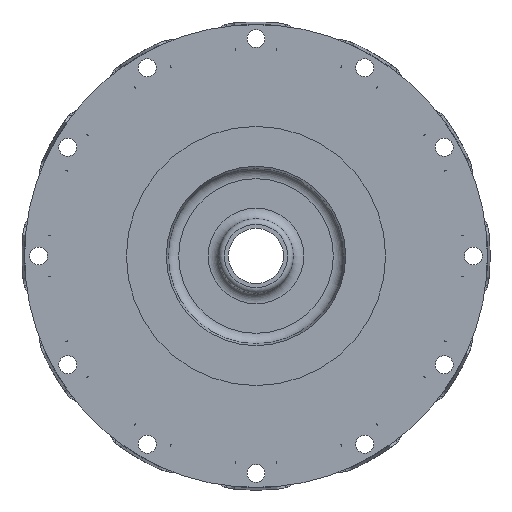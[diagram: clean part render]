
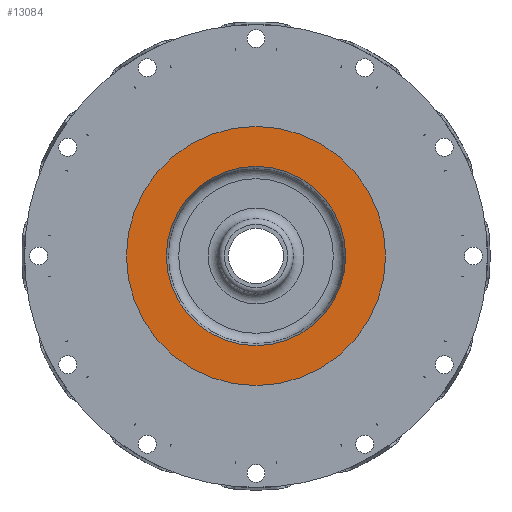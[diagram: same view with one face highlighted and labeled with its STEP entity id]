
A CAD part, left-side view. The second image highlights one B-rep face of the part: STEP entity #13084.
In plain terms, the highlighted planar face has unit normal (-1, 0, 0).
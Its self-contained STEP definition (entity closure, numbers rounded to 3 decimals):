
#1452=CIRCLE('',#14311,41.244);
#1453=CIRCLE('',#14313,59.601);
#3696=ORIENTED_EDGE('',*,*,#6935,.F.);
#3697=ORIENTED_EDGE('',*,*,#6936,.T.);
#6935=EDGE_CURVE('',#8624,#8624,#1452,.T.);
#6936=EDGE_CURVE('',#8625,#8625,#1453,.T.);
#8624=VERTEX_POINT('',#32392);
#8625=VERTEX_POINT('',#32395);
#11097=EDGE_LOOP('',(#3696));
#11098=EDGE_LOOP('',(#3697));
#11963=FACE_BOUND('',#11097,.T.);
#11964=FACE_BOUND('',#11098,.T.);
#12492=PLANE('',#14312);
#13084=ADVANCED_FACE('',(#11963,#11964),#12492,.F.);
#14311=AXIS2_PLACEMENT_3D('',#32391,#16809,#16810);
#14312=AXIS2_PLACEMENT_3D('',#32393,#16811,#16812);
#14313=AXIS2_PLACEMENT_3D('',#32394,#16813,#16814);
#16809=DIRECTION('',(-1.,0.,0.));
#16810=DIRECTION('',(0.,0.,1.));
#16811=DIRECTION('',(1.,0.,0.));
#16812=DIRECTION('',(0.,0.,-1.));
#16813=DIRECTION('',(-1.,0.,0.));
#16814=DIRECTION('',(0.,0.,1.));
#32391=CARTESIAN_POINT('',(-52.108,0.,0.));
#32392=CARTESIAN_POINT('',(-52.108,0.,41.244));
#32393=CARTESIAN_POINT('',(-52.108,59.601,0.));
#32394=CARTESIAN_POINT('',(-52.108,0.,0.));
#32395=CARTESIAN_POINT('',(-52.108,0.,59.601));
